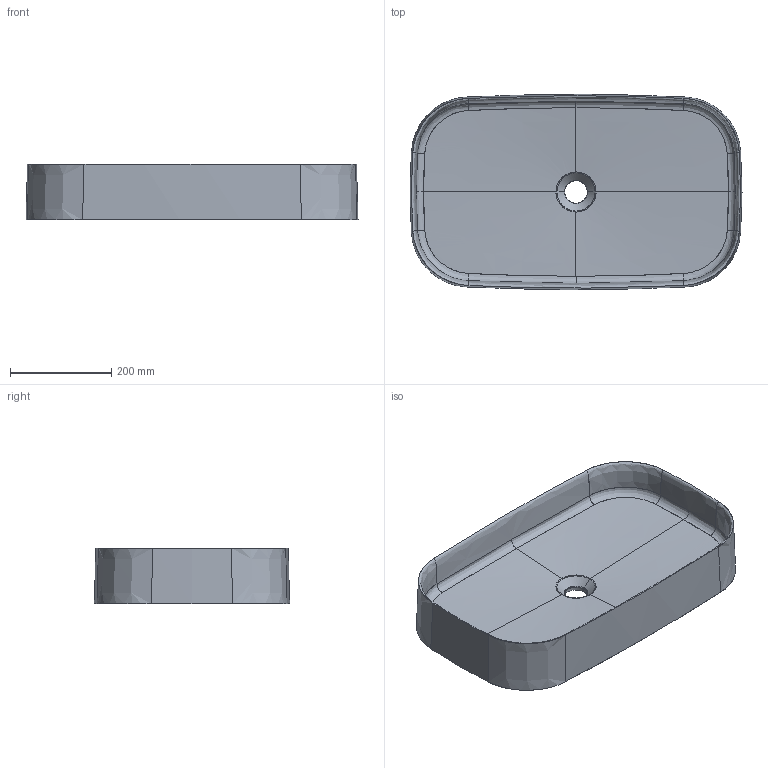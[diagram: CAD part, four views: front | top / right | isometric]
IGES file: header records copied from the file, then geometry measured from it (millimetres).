
Start section: START RECORD GO HERE.
Global section: file name: 7407_65x38 tondo.igs; native system: DASSAULT SYSTEMES CATIA V5 R19 - www.3ds.com; preprocessor: CATIA Version 5 Release 19 SP 5 ; author: gioge; organization: LAPTOP-G94B6G74; date: 20200630.143659; units: millimetre
Bounding box: 655.76 x 385.63 x 110 mm (x, y, z)
Surface area: 820702.4 mm2 (no closed solid volume)
Topology: 0 solids, 0 shells, 116 faces, 516 edges, 516 vertices
Faces by surface type: bspline 112, plane 4
